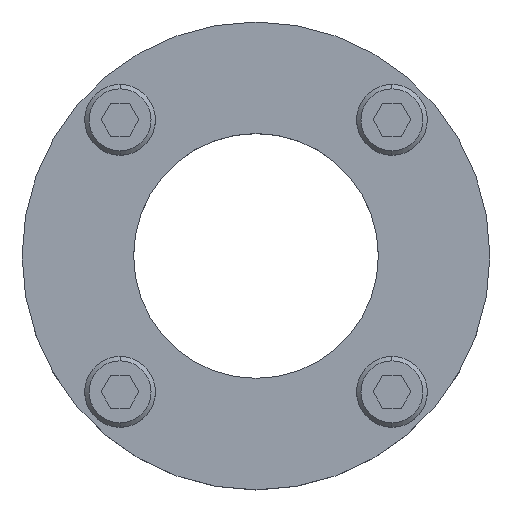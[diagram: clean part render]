
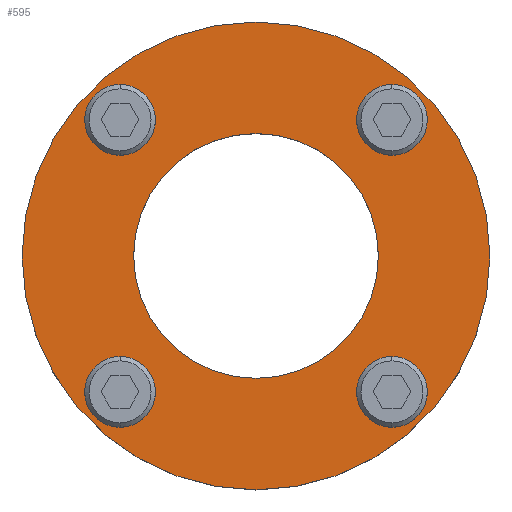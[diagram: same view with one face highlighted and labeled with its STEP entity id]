
A CAD part, top view. The second image highlights one B-rep face of the part: STEP entity #595.
In plain terms, the highlighted planar face has unit normal (0, 0, 1).
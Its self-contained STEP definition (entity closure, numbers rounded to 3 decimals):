
#595=ADVANCED_FACE('',(#779,#780,#781,#782,#783,#784),#725,.T.);
#725=PLANE('',#2192);
#779=FACE_BOUND('',#839,.T.);
#780=FACE_BOUND('',#840,.T.);
#781=FACE_BOUND('',#841,.T.);
#782=FACE_BOUND('',#842,.T.);
#783=FACE_BOUND('',#843,.T.);
#784=FACE_BOUND('',#844,.T.);
#839=EDGE_LOOP('',(#1007,#1008));
#840=EDGE_LOOP('',(#1009,#1010));
#841=EDGE_LOOP('',(#1011,#1012));
#842=EDGE_LOOP('',(#1013,#1014));
#843=EDGE_LOOP('',(#1015,#1016));
#844=EDGE_LOOP('',(#1017,#1018));
#1007=ORIENTED_EDGE('',*,*,#1759,.T.);
#1008=ORIENTED_EDGE('',*,*,#1760,.T.);
#1009=ORIENTED_EDGE('',*,*,#1761,.T.);
#1010=ORIENTED_EDGE('',*,*,#1762,.T.);
#1011=ORIENTED_EDGE('',*,*,#1763,.T.);
#1012=ORIENTED_EDGE('',*,*,#1764,.T.);
#1013=ORIENTED_EDGE('',*,*,#1765,.T.);
#1014=ORIENTED_EDGE('',*,*,#1766,.T.);
#1015=ORIENTED_EDGE('',*,*,#1767,.T.);
#1016=ORIENTED_EDGE('',*,*,#1768,.T.);
#1017=ORIENTED_EDGE('',*,*,#1769,.T.);
#1018=ORIENTED_EDGE('',*,*,#1770,.T.);
#1575=VERTEX_POINT('',#3130);
#1576=VERTEX_POINT('',#3131);
#1577=VERTEX_POINT('',#3134);
#1578=VERTEX_POINT('',#3135);
#1579=VERTEX_POINT('',#3138);
#1580=VERTEX_POINT('',#3139);
#1581=VERTEX_POINT('',#3142);
#1582=VERTEX_POINT('',#3143);
#1583=VERTEX_POINT('',#3146);
#1584=VERTEX_POINT('',#3147);
#1585=VERTEX_POINT('',#3150);
#1586=VERTEX_POINT('',#3151);
#1759=EDGE_CURVE('',#1575,#1576,#2043,.T.);
#1760=EDGE_CURVE('',#1576,#1575,#2044,.T.);
#1761=EDGE_CURVE('',#1577,#1578,#2045,.T.);
#1762=EDGE_CURVE('',#1578,#1577,#2046,.T.);
#1763=EDGE_CURVE('',#1579,#1580,#2047,.T.);
#1764=EDGE_CURVE('',#1580,#1579,#2048,.T.);
#1765=EDGE_CURVE('',#1581,#1582,#2049,.T.);
#1766=EDGE_CURVE('',#1582,#1581,#2050,.T.);
#1767=EDGE_CURVE('',#1583,#1584,#2051,.T.);
#1768=EDGE_CURVE('',#1584,#1583,#2052,.T.);
#1769=EDGE_CURVE('',#1585,#1586,#2053,.T.);
#1770=EDGE_CURVE('',#1586,#1585,#2054,.T.);
#2043=CIRCLE('',#2180,43.);
#2044=CIRCLE('',#2181,43.);
#2045=CIRCLE('',#2182,4.5);
#2046=CIRCLE('',#2183,4.5);
#2047=CIRCLE('',#2184,4.5);
#2048=CIRCLE('',#2185,4.5);
#2049=CIRCLE('',#2186,4.5);
#2050=CIRCLE('',#2187,4.5);
#2051=CIRCLE('',#2188,4.5);
#2052=CIRCLE('',#2189,4.5);
#2053=CIRCLE('',#2190,22.5);
#2054=CIRCLE('',#2191,22.5);
#2180=AXIS2_PLACEMENT_3D('',#3129,#2448,#2449);
#2181=AXIS2_PLACEMENT_3D('',#3132,#2450,#2451);
#2182=AXIS2_PLACEMENT_3D('',#3133,#2452,#2453);
#2183=AXIS2_PLACEMENT_3D('',#3136,#2454,#2455);
#2184=AXIS2_PLACEMENT_3D('',#3137,#2456,#2457);
#2185=AXIS2_PLACEMENT_3D('',#3140,#2458,#2459);
#2186=AXIS2_PLACEMENT_3D('',#3141,#2460,#2461);
#2187=AXIS2_PLACEMENT_3D('',#3144,#2462,#2463);
#2188=AXIS2_PLACEMENT_3D('',#3145,#2464,#2465);
#2189=AXIS2_PLACEMENT_3D('',#3148,#2466,#2467);
#2190=AXIS2_PLACEMENT_3D('',#3149,#2468,#2469);
#2191=AXIS2_PLACEMENT_3D('',#3152,#2470,#2471);
#2192=AXIS2_PLACEMENT_3D('',#3153,#2472,#2473);
#2448=DIRECTION('',(0.,0.,1.));
#2449=DIRECTION('',(1.,0.,0.));
#2450=DIRECTION('',(0.,0.,1.));
#2451=DIRECTION('',(-1.,0.,0.));
#2452=DIRECTION('',(0.,0.,-1.));
#2453=DIRECTION('',(-1.,0.,0.));
#2454=DIRECTION('',(0.,0.,-1.));
#2455=DIRECTION('',(1.,0.,0.));
#2456=DIRECTION('',(0.,0.,-1.));
#2457=DIRECTION('',(-1.,0.,0.));
#2458=DIRECTION('',(0.,0.,-1.));
#2459=DIRECTION('',(1.,0.,0.));
#2460=DIRECTION('',(0.,0.,-1.));
#2461=DIRECTION('',(-1.,0.,0.));
#2462=DIRECTION('',(0.,0.,-1.));
#2463=DIRECTION('',(1.,0.,0.));
#2464=DIRECTION('',(0.,0.,-1.));
#2465=DIRECTION('',(-1.,0.,0.));
#2466=DIRECTION('',(0.,0.,-1.));
#2467=DIRECTION('',(1.,0.,0.));
#2468=DIRECTION('',(0.,0.,-1.));
#2469=DIRECTION('',(-1.,0.,0.));
#2470=DIRECTION('',(0.,0.,-1.));
#2471=DIRECTION('',(1.,0.,0.));
#2472=DIRECTION('',(0.,0.,1.));
#2473=DIRECTION('',(0.,-1.,0.));
#3129=CARTESIAN_POINT('',(0.,0.,13.));
#3130=CARTESIAN_POINT('',(0.,43.,13.));
#3131=CARTESIAN_POINT('',(0.,-43.,13.));
#3132=CARTESIAN_POINT('',(0.,0.,13.));
#3133=CARTESIAN_POINT('',(24.992,-25.,13.));
#3134=CARTESIAN_POINT('',(24.992,-20.5,13.));
#3135=CARTESIAN_POINT('',(24.992,-29.5,13.));
#3136=CARTESIAN_POINT('',(24.992,-25.,13.));
#3137=CARTESIAN_POINT('',(24.992,25.,13.));
#3138=CARTESIAN_POINT('',(24.992,29.5,13.));
#3139=CARTESIAN_POINT('',(24.992,20.5,13.));
#3140=CARTESIAN_POINT('',(24.992,25.,13.));
#3141=CARTESIAN_POINT('',(-24.992,25.,13.));
#3142=CARTESIAN_POINT('',(-24.992,29.5,13.));
#3143=CARTESIAN_POINT('',(-24.992,20.5,13.));
#3144=CARTESIAN_POINT('',(-24.992,25.,13.));
#3145=CARTESIAN_POINT('',(-24.992,-25.,13.));
#3146=CARTESIAN_POINT('',(-24.992,-20.5,13.));
#3147=CARTESIAN_POINT('',(-24.992,-29.5,13.));
#3148=CARTESIAN_POINT('',(-24.992,-25.,13.));
#3149=CARTESIAN_POINT('',(0.,0.,13.));
#3150=CARTESIAN_POINT('',(0.,22.5,13.));
#3151=CARTESIAN_POINT('',(0.,-22.5,13.));
#3152=CARTESIAN_POINT('',(0.,0.,13.));
#3153=CARTESIAN_POINT('',(43.,0.,13.));
